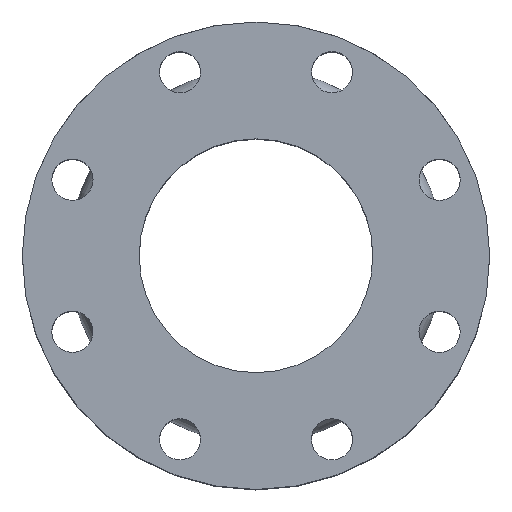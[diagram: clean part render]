
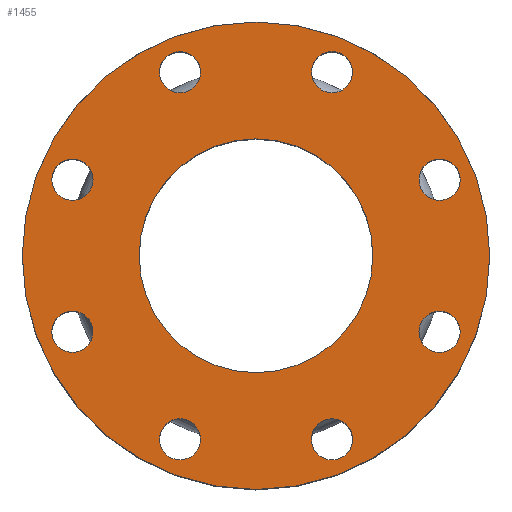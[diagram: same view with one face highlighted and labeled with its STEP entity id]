
A CAD part, top view. The second image highlights one B-rep face of the part: STEP entity #1455.
In plain terms, the highlighted planar face has unit normal (0, 0, 1).
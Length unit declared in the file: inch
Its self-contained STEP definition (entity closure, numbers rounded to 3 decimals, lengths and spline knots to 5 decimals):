
#40=FACE_BOUND('',#257,.T.);
#41=FACE_BOUND('',#258,.T.);
#42=FACE_BOUND('',#259,.T.);
#43=FACE_BOUND('',#260,.T.);
#44=FACE_BOUND('',#261,.T.);
#45=FACE_BOUND('',#262,.T.);
#46=FACE_BOUND('',#263,.T.);
#47=FACE_BOUND('',#264,.T.);
#48=FACE_BOUND('',#265,.T.);
#96=PLANE('',#1625);
#156=FACE_OUTER_BOUND('',#256,.T.);
#256=EDGE_LOOP('',(#1076));
#257=EDGE_LOOP('',(#1077));
#258=EDGE_LOOP('',(#1078));
#259=EDGE_LOOP('',(#1079));
#260=EDGE_LOOP('',(#1080));
#261=EDGE_LOOP('',(#1081));
#262=EDGE_LOOP('',(#1082));
#263=EDGE_LOOP('',(#1083));
#264=EDGE_LOOP('',(#1084));
#265=EDGE_LOOP('',(#1085));
#540=CIRCLE('',#1598,0.44);
#542=CIRCLE('',#1601,0.44);
#544=CIRCLE('',#1604,0.44);
#546=CIRCLE('',#1607,0.44);
#548=CIRCLE('',#1610,0.44);
#550=CIRCLE('',#1613,0.44);
#552=CIRCLE('',#1616,0.44);
#554=CIRCLE('',#1619,0.44);
#555=CIRCLE('',#1621,2.5);
#557=CIRCLE('',#1624,5.);
#648=VERTEX_POINT('',#2305);
#650=VERTEX_POINT('',#2311);
#652=VERTEX_POINT('',#2317);
#654=VERTEX_POINT('',#2323);
#656=VERTEX_POINT('',#2329);
#658=VERTEX_POINT('',#2335);
#660=VERTEX_POINT('',#2341);
#662=VERTEX_POINT('',#2347);
#663=VERTEX_POINT('',#2351);
#665=VERTEX_POINT('',#2357);
#793=EDGE_CURVE('',#648,#648,#540,.T.);
#796=EDGE_CURVE('',#650,#650,#542,.T.);
#799=EDGE_CURVE('',#652,#652,#544,.T.);
#802=EDGE_CURVE('',#654,#654,#546,.T.);
#805=EDGE_CURVE('',#656,#656,#548,.T.);
#808=EDGE_CURVE('',#658,#658,#550,.T.);
#811=EDGE_CURVE('',#660,#660,#552,.T.);
#814=EDGE_CURVE('',#662,#662,#554,.T.);
#815=EDGE_CURVE('',#663,#663,#555,.T.);
#819=EDGE_CURVE('',#665,#665,#557,.T.);
#1076=ORIENTED_EDGE('',*,*,#819,.F.);
#1077=ORIENTED_EDGE('',*,*,#793,.T.);
#1078=ORIENTED_EDGE('',*,*,#796,.T.);
#1079=ORIENTED_EDGE('',*,*,#799,.T.);
#1080=ORIENTED_EDGE('',*,*,#802,.T.);
#1081=ORIENTED_EDGE('',*,*,#805,.T.);
#1082=ORIENTED_EDGE('',*,*,#808,.T.);
#1083=ORIENTED_EDGE('',*,*,#811,.T.);
#1084=ORIENTED_EDGE('',*,*,#814,.T.);
#1085=ORIENTED_EDGE('',*,*,#815,.T.);
#1455=ADVANCED_FACE('',(#156,#40,#41,#42,#43,#44,#45,#46,#47,#48),#96,.F.);
#1598=AXIS2_PLACEMENT_3D('',#2307,#1882,#1883);
#1601=AXIS2_PLACEMENT_3D('',#2313,#1889,#1890);
#1604=AXIS2_PLACEMENT_3D('',#2319,#1896,#1897);
#1607=AXIS2_PLACEMENT_3D('',#2325,#1903,#1904);
#1610=AXIS2_PLACEMENT_3D('',#2331,#1910,#1911);
#1613=AXIS2_PLACEMENT_3D('',#2337,#1917,#1918);
#1616=AXIS2_PLACEMENT_3D('',#2343,#1924,#1925);
#1619=AXIS2_PLACEMENT_3D('',#2349,#1931,#1932);
#1621=AXIS2_PLACEMENT_3D('',#2352,#1935,#1936);
#1624=AXIS2_PLACEMENT_3D('',#2359,#1943,#1944);
#1625=AXIS2_PLACEMENT_3D('',#2360,#1945,#1946);
#1882=DIRECTION('center_axis',(0.,0.,
-1.));
#1883=DIRECTION('ref_axis',(0.,-1.,0.));
#1889=DIRECTION('center_axis',(0.,0.,
-1.));
#1890=DIRECTION('ref_axis',(-0.707,-0.707,0.));
#1896=DIRECTION('center_axis',(0.,0.,
-1.));
#1897=DIRECTION('ref_axis',(-1.,0.,0.));
#1903=DIRECTION('center_axis',(0.,0.,
-1.));
#1904=DIRECTION('ref_axis',(-0.707,0.707,0.));
#1910=DIRECTION('center_axis',(0.,0.,
-1.));
#1911=DIRECTION('ref_axis',(0.,1.,0.));
#1917=DIRECTION('center_axis',(0.,0.,
-1.));
#1918=DIRECTION('ref_axis',(0.707,0.707,0.));
#1924=DIRECTION('center_axis',(0.,0.,
-1.));
#1925=DIRECTION('ref_axis',(0.707,-0.707,0.));
#1931=DIRECTION('center_axis',(0.,0.,
-1.));
#1932=DIRECTION('ref_axis',(1.,0.,0.));
#1935=DIRECTION('center_axis',(0.,0.,
-1.));
#1936=DIRECTION('ref_axis',(-1.,0.,0.));
#1943=DIRECTION('center_axis',(0.,0.,
-1.));
#1944=DIRECTION('ref_axis',(1.,0.,0.));
#1945=DIRECTION('center_axis',(0.,0.,
-1.));
#1946=DIRECTION('ref_axis',(1.,0.,0.));
#2305=CARTESIAN_POINT('',(-3.92649,2.0664,3.));
#2307=CARTESIAN_POINT('Origin',(-3.92649,1.6264,3.));
#2311=CARTESIAN_POINT('',(-1.31528,4.23761,3.));
#2313=CARTESIAN_POINT('Origin',(-1.6264,3.92649,3.));
#2317=CARTESIAN_POINT('',(2.0664,3.92649,3.));
#2319=CARTESIAN_POINT('Origin',(1.6264,3.92649,3.));
#2323=CARTESIAN_POINT('',(4.23761,1.31528,3.));
#2325=CARTESIAN_POINT('Origin',(3.92649,1.6264,3.));
#2329=CARTESIAN_POINT('',(3.92649,-2.0664,3.));
#2331=CARTESIAN_POINT('Origin',(3.92649,-1.6264,3.));
#2335=CARTESIAN_POINT('',(1.31528,-4.23761,3.));
#2337=CARTESIAN_POINT('Origin',(1.6264,-3.92649,3.));
#2341=CARTESIAN_POINT('',(-4.23761,-1.31528,3.));
#2343=CARTESIAN_POINT('Origin',(-3.92649,-1.6264,3.));
#2347=CARTESIAN_POINT('',(-2.0664,-3.92649,3.));
#2349=CARTESIAN_POINT('Origin',(-1.6264,-3.92649,3.));
#2351=CARTESIAN_POINT('',(2.5,0.,3.));
#2352=CARTESIAN_POINT('Origin',(0.,0.,
3.));
#2357=CARTESIAN_POINT('',(-5.,0.,3.));
#2359=CARTESIAN_POINT('Origin',(0.,0.,
3.));
#2360=CARTESIAN_POINT('Origin',(0.,0.,
3.));
